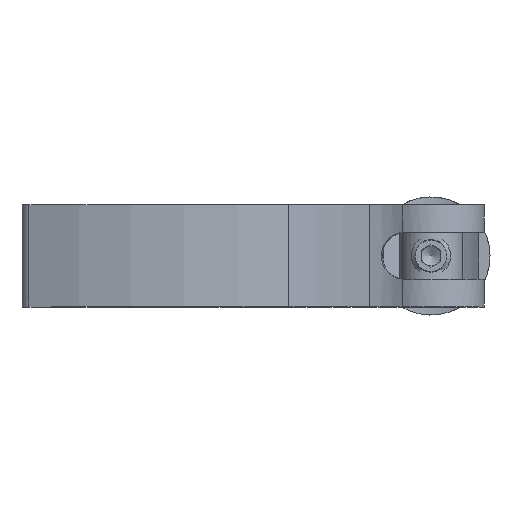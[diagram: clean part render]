
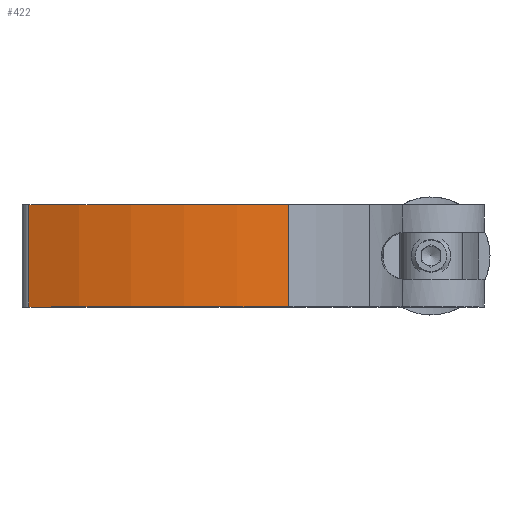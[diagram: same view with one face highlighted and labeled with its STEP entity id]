
A CAD part, top view. The second image highlights one B-rep face of the part: STEP entity #422.
In plain terms, the highlighted cylindrical face has radius 48.278 mm (diameter 96.556 mm), a partial arc.
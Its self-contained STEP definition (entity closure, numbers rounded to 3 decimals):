
#422=ADVANCED_FACE('',(#681),#683,.T.);
#681=FACE_BOUND('',#682,.T.);
#682=EDGE_LOOP('',(#964,#965,#966,#967));
#683=CYLINDRICAL_SURFACE('',#684,48.278);
#684=AXIS2_PLACEMENT_3D('',#685,#686,#687);
#685=CARTESIAN_POINT('',(-32.129,0.,-42.629));
#686=DIRECTION('',(0.,1.,0.));
#687=DIRECTION('',(-0.392,0.,0.92));
#964=ORIENTED_EDGE('',*,*,#1103,.T.);
#965=ORIENTED_EDGE('',*,*,#1101,.T.);
#966=ORIENTED_EDGE('',*,*,#1097,.F.);
#967=ORIENTED_EDGE('',*,*,#1112,.F.);
#1097=EDGE_CURVE('',#1252,#1254,#1255,.T.);
#1101=EDGE_CURVE('',#1258,#1254,#1260,.T.);
#1103=EDGE_CURVE('',#1263,#1258,#1264,.T.);
#1112=EDGE_CURVE('',#1263,#1252,#1276,.T.);
#1252=VERTEX_POINT('',#2352);
#1254=VERTEX_POINT('',#2357);
#1255=CIRCLE('',#2358,48.278);
#1258=VERTEX_POINT('',#2370);
#1260=LINE('',#2375,#2376);
#1263=VERTEX_POINT('',#2383);
#1264=CIRCLE('',#2384,48.278);
#1276=LINE('',#2418,#2419);
#2352=CARTESIAN_POINT('',(-51.068,13.,1.78));
#2357=CARTESIAN_POINT('',(-18.,13.,3.536));
#2358=AXIS2_PLACEMENT_3D('',#2359,#2360,#2361);
#2359=CARTESIAN_POINT('',(-32.129,13.,-42.629));
#2360=DIRECTION('',(0.,1.,0.));
#2361=DIRECTION('',(-0.392,0.,0.92));
#2370=CARTESIAN_POINT('',(-18.,0.,3.536));
#2375=CARTESIAN_POINT('',(-18.,0.,3.536));
#2376=VECTOR('',#2377,1.);
#2377=DIRECTION('',(0.,1.,0.));
#2383=CARTESIAN_POINT('',(-51.068,0.,1.78));
#2384=AXIS2_PLACEMENT_3D('',#2385,#2386,#2387);
#2385=CARTESIAN_POINT('',(-32.129,0.,-42.629));
#2386=DIRECTION('',(0.,1.,0.));
#2387=DIRECTION('',(-0.392,0.,0.92));
#2418=CARTESIAN_POINT('',(-51.068,0.,1.78));
#2419=VECTOR('',#2420,1.);
#2420=DIRECTION('',(0.,1.,0.));
